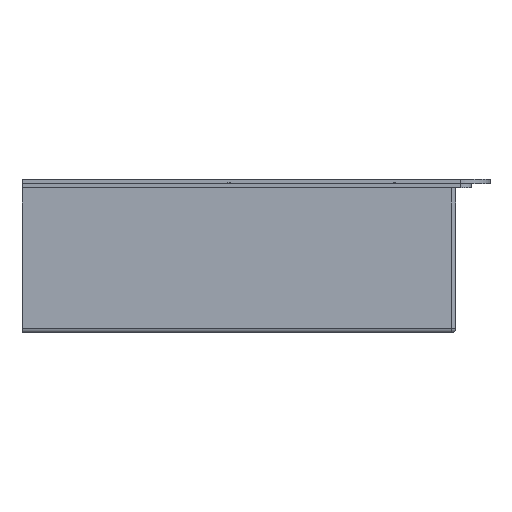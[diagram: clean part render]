
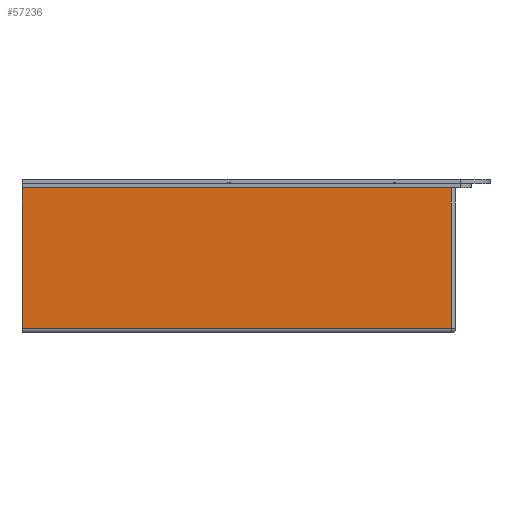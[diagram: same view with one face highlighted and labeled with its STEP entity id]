
A CAD part, front view. The second image highlights one B-rep face of the part: STEP entity #57236.
In plain terms, the highlighted planar face has unit normal (0, -1, 0).
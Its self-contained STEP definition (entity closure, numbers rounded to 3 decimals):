
#336 = DIRECTION ( 'NONE',  ( 0., 0., 1. ) ) ;
#1784 = VECTOR ( 'NONE', #12642, 1000. ) ;
#3575 = VECTOR ( 'NONE', #35855, 1000. ) ;
#5591 = CARTESIAN_POINT ( 'NONE',  ( 54.728, -274.888, -4. ) ) ;
#6654 = ORIENTED_EDGE ( 'NONE', *, *, #15562, .F. ) ;
#7560 = CARTESIAN_POINT ( 'NONE',  ( 54.728, -274.888, -67.8 ) ) ;
#11949 = VERTEX_POINT ( 'NONE', #7560 ) ;
#12642 = DIRECTION ( 'NONE',  ( 1., 0., 0. ) ) ;
#13235 = EDGE_LOOP ( 'NONE', ( #52660, #22059, #6654, #31914 ) ) ;
#15562 = EDGE_CURVE ( 'NONE', #11949, #57672, #39285, .T. ) ;
#16426 = CARTESIAN_POINT ( 'NONE',  ( 249.728, -274.888, -4. ) ) ;
#20923 = DIRECTION ( 'NONE',  ( 1., 0., 0. ) ) ;
#21335 = DIRECTION ( 'NONE',  ( 0., 0., 1. ) ) ;
#22059 = ORIENTED_EDGE ( 'NONE', *, *, #46202, .F. ) ;
#26526 = VERTEX_POINT ( 'NONE', #45736 ) ;
#27100 = DIRECTION ( 'NONE',  ( 0., 1., 0. ) ) ;
#28362 = LINE ( 'NONE', #34955, #1784 ) ;
#31914 = ORIENTED_EDGE ( 'NONE', *, *, #52901, .T. ) ;
#32856 = VECTOR ( 'NONE', #21335, 1000. ) ;
#34955 = CARTESIAN_POINT ( 'NONE',  ( 54.728, -274.888, -67.8 ) ) ;
#35656 = CARTESIAN_POINT ( 'NONE',  ( 54.728, -274.888, -69.8 ) ) ;
#35855 = DIRECTION ( 'NONE',  ( 0., 0., 1. ) ) ;
#38354 = FACE_OUTER_BOUND ( 'NONE', #13235, .T. ) ;
#39285 = LINE ( 'NONE', #35656, #3575 ) ;
#40803 = VECTOR ( 'NONE', #20923, 1000. ) ;
#41115 = AXIS2_PLACEMENT_3D ( 'NONE', #49416, #27100, #336 ) ;
#44933 = PLANE ( 'NONE',  #41115 ) ;
#45736 = CARTESIAN_POINT ( 'NONE',  ( 249.728, -274.888, -67.8 ) ) ;
#46202 = EDGE_CURVE ( 'NONE', #57672, #58023, #51301, .T. ) ;
#48157 = CARTESIAN_POINT ( 'NONE',  ( 249.728, -274.888, -69.8 ) ) ;
#49416 = CARTESIAN_POINT ( 'NONE',  ( 54.728, -274.888, -69.8 ) ) ;
#51301 = LINE ( 'NONE', #16426, #40803 ) ;
#52660 = ORIENTED_EDGE ( 'NONE', *, *, #56221, .T. ) ;
#52901 = EDGE_CURVE ( 'NONE', #11949, #26526, #28362, .T. ) ;
#56221 = EDGE_CURVE ( 'NONE', #26526, #58023, #56625, .T. ) ;
#56625 = LINE ( 'NONE', #48157, #32856 ) ;
#57236 = ADVANCED_FACE ( 'NONE', ( #38354 ), #44933, .F. ) ;
#57579 = CARTESIAN_POINT ( 'NONE',  ( 249.728, -274.888, -4. ) ) ;
#57672 = VERTEX_POINT ( 'NONE', #5591 ) ;
#58023 = VERTEX_POINT ( 'NONE', #57579 ) ;
